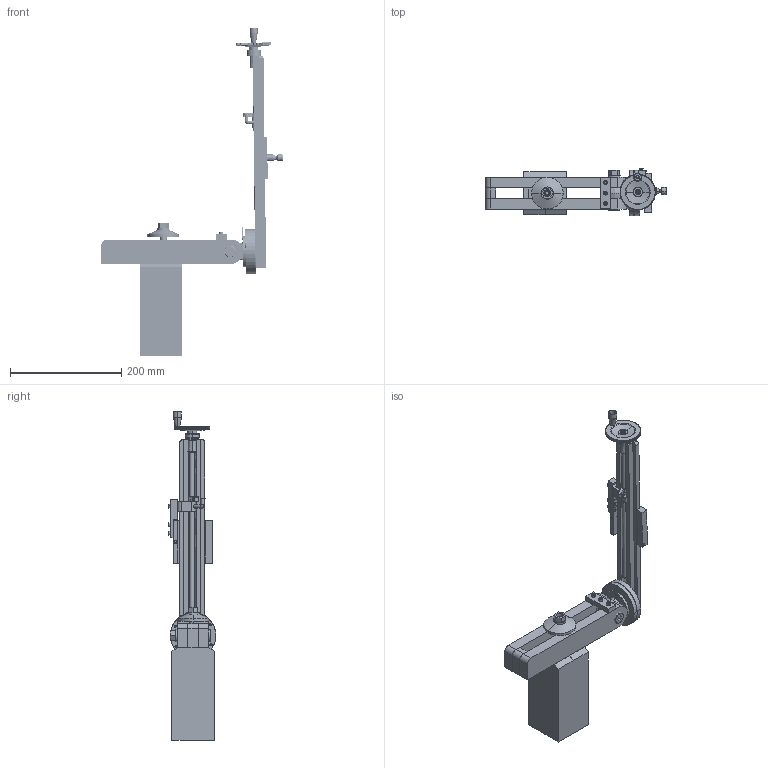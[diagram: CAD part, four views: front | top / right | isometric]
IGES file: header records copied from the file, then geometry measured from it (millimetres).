
Start section: Comment
Global section: file name: nex gen mill column hw 1 24 19.igs; native system:  By Spatial Corp.; preprocessor: XPlus PS/IGES 3.0; author: Author; organization: Title; date: 20190124.180910; units: inch
Bounding box: 325.6 x 85.6 x 590.12 mm (x, y, z)
Surface area: 304275.3 mm2 (no closed solid volume)
Topology: 0 solids, 0 shells, 2153 faces, 12812 edges, 12804 vertices
Faces by surface type: revolution 1458, extrusion 671, bspline 24
